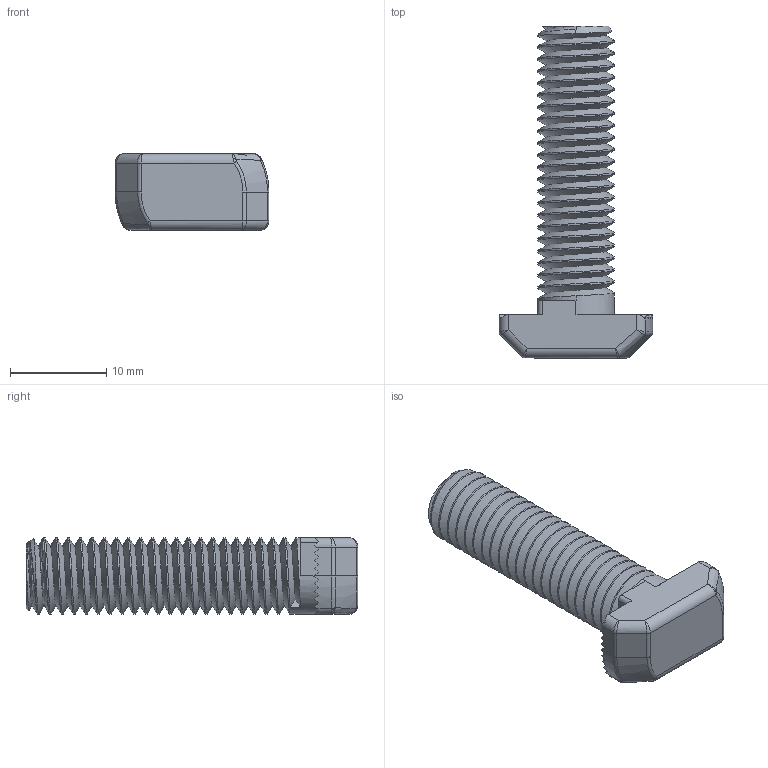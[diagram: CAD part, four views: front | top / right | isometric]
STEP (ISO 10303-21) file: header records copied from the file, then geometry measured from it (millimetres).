
FILE_DESCRIPTION (( 'STEP AP214' ), '1' );
FILE_NAME ('Drop In Bolt - T-Slot - 30 Series - M8 - 30mm.STEP', '2024-09-30T09:49:31', ( '' ), ( '' ), 'SwSTEP 2.0', 'SolidWorks 2024', '' );
FILE_SCHEMA (( 'AUTOMOTIVE_DESIGN' ));
Length unit declared in the file: millimetre
Products named in the file (1): Drop In Bolt - T-Slot - 30 Series - M8 - 30mm
Bounding box: 16 x 34.5 x 8 mm (x, y, z)
Volume: 1738.5 mm3; surface area: 1646.4 mm2
Topology: 1 solids, 1 shells, 144 faces, 393 edges, 244 vertices
Faces by surface type: cylinder 60, plane 59, bspline 16, cone 5, torus 4
Entity records: 7247 total; most frequent: CARTESIAN_POINT 4185, ORIENTED_EDGE 770, DIRECTION 497, EDGE_CURVE 385, VERTEX_POINT 244, VECTOR 177, LINE 177, AXIS2_PLACEMENT_3D 160
